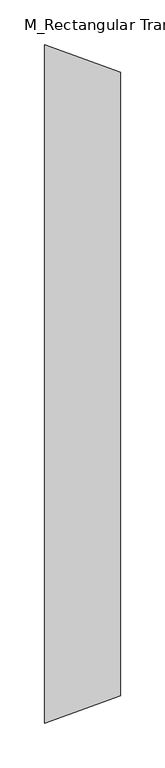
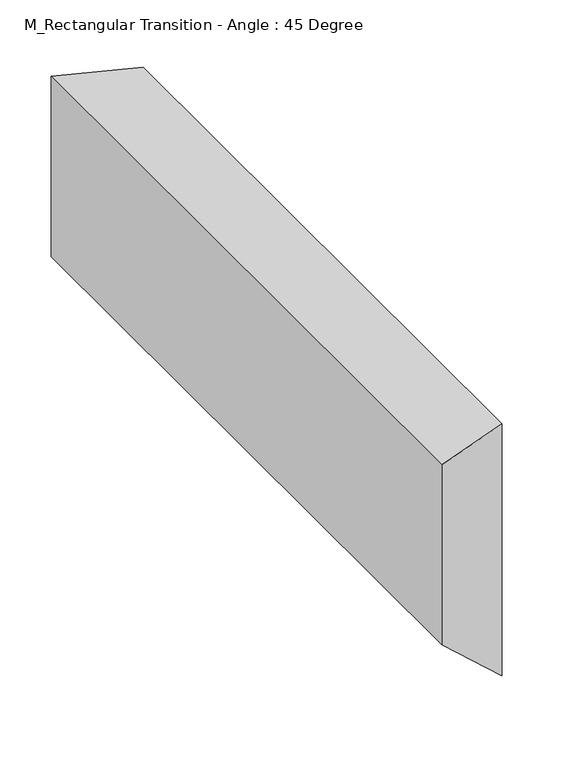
"""IFC4 building model written with IfcOpenShell, lengths in millimetres: duct fitting geometry, M_Rectangular Transition - Angle : 45 Degree."""

import ifcopenshell
import ifcopenshell.guid

model = None  # the IFC model being written
_history = None  # IfcOwnerHistory: only IFC2X3 demands one
_inside = {}  # id of a spatial element -> (the spatial element, [elements in it])
_under = {}  # id of a project, library or spatial element -> (it, [spatial elements below it])
_declared = {}  # id of a project -> (the project, [libraries it declares])
_typed = {}  # id of a type object -> (the type object, [elements of that type])
_made_of = {}  # id of a material, layer set ... -> (it, [elements and type objects made of it])


def new_model(schema):
    """Start an empty IFC model of exactly this schema.

    Asked for "IFC4X3", IfcOpenShell would pick the latest addendum, in which some entities
    have other attributes; the version numbers below select the first issue.
    IFC2X3 requires an IfcOwnerHistory on every rooted entity: one is made here for all.
    """
    global model, _history
    if schema == "IFC4X3":
        model = ifcopenshell.file(schema_version=(4, 3, 0, 0))
    else:
        model = ifcopenshell.file(schema=schema)
    _inside.clear()
    _under.clear()
    _declared.clear()
    _typed.clear()
    _made_of.clear()
    _history = None
    if model.schema == "IFC2X3":
        org = make("IfcOrganization", Name="unknown")
        user = make(
            "IfcPersonAndOrganization",
            ThePerson=make("IfcPerson", FamilyName="unknown"),
            TheOrganization=org,
        )
        app = make(
            "IfcApplication",
            ApplicationDeveloper=org,
            Version="unknown",
            ApplicationFullName="unknown",
            ApplicationIdentifier="unknown",
        )
        _history = make(
            "IfcOwnerHistory",
            OwningUser=user,
            OwningApplication=app,
            ChangeAction="ADDED",
            CreationDate=0,
        )
    return model


def make(cls, **values):
    """One entity of the class cls with the attributes given. An attribute that is None is left unset."""
    return model.create_entity(
        cls, **{name: value for name, value in values.items() if value is not None}
    )


def rooted(cls, **values):
    """An entity with a GlobalId (a new one), such as an element, a storey or a relation."""
    return make(cls, GlobalId=ifcopenshell.guid.new(), OwnerHistory=_history, **values)


def si_unit(unit_type, name, prefix=None):
    """IfcSIUnit, for example si_unit("LENGTHUNIT", "METRE", prefix="MILLI")."""
    return make("IfcSIUnit", UnitType=unit_type, Prefix=prefix, Name=name)


def assignment(units):
    """IfcUnitAssignment: the units of a project."""
    return None if units is None else make("IfcUnitAssignment", Units=units)


def point(xyz):
    """IfcCartesianPoint."""
    return None if xyz is None else make("IfcCartesianPoint", Coordinates=xyz)


def direction(xyz):
    """IfcDirection."""
    return None if xyz is None else make("IfcDirection", DirectionRatios=xyz)


def frame(location, z_axis=None, x_axis=None):
    """IfcAxis2Placement3D, a coordinate frame: its origin and axes. An axis left out is left unset."""
    return make(
        "IfcAxis2Placement3D",
        Location=point(location),
        Axis=direction(z_axis),
        RefDirection=direction(x_axis),
    )


def origin():
    """The frame at (0, 0, 0) with its axes left unset."""
    return frame((0.0, 0.0, 0.0))


def place(relative_to, where):
    """IfcLocalPlacement: puts the frame where relative to a parent placement (None: the world)."""
    return make(
        "IfcLocalPlacement", PlacementRelTo=relative_to, RelativePlacement=where
    )


def context(
    kind, dimensions, precision=None, world=None, true_north=None, identifier=None
):
    """IfcGeometricRepresentationContext, for example the 3D "Model" context."""
    return make(
        "IfcGeometricRepresentationContext",
        ContextIdentifier=identifier,
        ContextType=kind,
        CoordinateSpaceDimension=dimensions,
        Precision=precision,
        WorldCoordinateSystem=world,
        TrueNorth=true_north,
    )


def project(units=None, contexts=None):
    """IfcProject with its units and contexts."""
    return rooted(
        "IfcProject",
        Name="project",
        RepresentationContexts=contexts,
        UnitsInContext=assignment(units),
    )


def spatial(cls, under=None, at=None, **own):
    """A site, building, storey or space (cls), placed at a placement, below another one or the project."""
    s = rooted(cls, ObjectPlacement=at, **own)
    if under is not None:
        _under.setdefault(under.id(), (under, []))[1].append(s)
    return s


def faces_of(points, faces, orient=None, outer=None):
    """IfcFace entities. A face is a list of loops; a loop is a list of indices into points, from 0.

    orient and outer hold one flag for each loop. By default every Orientation is true, the
    first loop of a face is its IfcFaceOuterBound and the others are IfcFaceBound.
    """
    made = []
    for i, loops in enumerate(faces):
        bounds = []
        for j, loop in enumerate(loops):
            is_outer = j == 0 if outer is None else outer[i][j]
            bounds.append(
                make(
                    "IfcFaceOuterBound" if is_outer else "IfcFaceBound",
                    Bound=make("IfcPolyLoop", Polygon=[points[k] for k in loop]),
                    Orientation=True if orient is None else orient[i][j],
                )
            )
        made.append(make("IfcFace", Bounds=bounds))
    return made


def faceted_brep(points, faces, orient=None, outer=None, voids=None):
    """IfcFacetedBrep: a solid bounded by flat faces; with voids (closed shells), ...WithVoids."""
    shared = [point(p) for p in points]
    hull = make("IfcClosedShell", CfsFaces=faces_of(shared, faces, orient, outer))
    if voids is None:
        return make("IfcFacetedBrep", Outer=hull)
    return make(
        "IfcFacetedBrepWithVoids",
        Outer=hull,
        Voids=[
            make(cls, CfsFaces=faces_of(shared, fs, o, b)) for cls, fs, o, b in voids
        ],
    )


def shape(context_of_items, identifier, shape_type, items):
    """IfcShapeRepresentation: the items that make up one representation, for example the "Body"."""
    return make(
        "IfcShapeRepresentation",
        ContextOfItems=context_of_items,
        RepresentationIdentifier=identifier,
        RepresentationType=shape_type,
        Items=items,
    )


def source(mapping_origin, context_of_items, identifier, shape_type, items):
    """IfcRepresentationMap: a shape defined once, which mapped items show again and again."""
    return make(
        "IfcRepresentationMap",
        MappingOrigin=mapping_origin,
        MappedRepresentation=shape(context_of_items, identifier, shape_type, items),
    )


def transform(
    local_origin,
    x_axis=None,
    y_axis=None,
    z_axis=None,
    scale=None,
    scale2=None,
    scale3=None,
    uniform=True,
):
    """IfcCartesianTransformationOperator3D, or its non-uniform kind. x_axis, y_axis, z_axis: its Axis1, 2, 3."""
    if uniform:
        return make(
            "IfcCartesianTransformationOperator3D",
            Axis1=direction(x_axis),
            Axis2=direction(y_axis),
            LocalOrigin=point(local_origin),
            Scale=scale,
            Axis3=direction(z_axis),
        )
    return make(
        "IfcCartesianTransformationOperator3DnonUniform",
        Axis1=direction(x_axis),
        Axis2=direction(y_axis),
        LocalOrigin=point(local_origin),
        Scale=scale,
        Axis3=direction(z_axis),
        Scale2=scale2,
        Scale3=scale3,
    )


def mapped(mapping_source, mapping_target):
    """IfcMappedItem: shows the shape of a source again, moved by a transform."""
    return make(
        "IfcMappedItem", MappingSource=mapping_source, MappingTarget=mapping_target
    )


def made_of(thing, what):
    """Note that an element or type object is made of a material, layer set ...; save() writes the relation."""
    if what is not None:
        _made_of.setdefault(what.id(), (what, []))[1].append(thing)
    return thing


def element(
    cls,
    number,
    at=None,
    inside=None,
    cuts=None,
    type_object=None,
    material=None,
    context=None,
    identifier="Body",
    shape_type=None,
    held_by="IfcProductDefinitionShape",
    body=None,
    shapes=None,
    **own,
):
    """One element of the class cls, such as IfcWall. Its Tag is "e" and its number.

    at: its placement. inside: the storey or other place that contains it. cuts: it is an
    opening in that element (IfcRelVoidsElement). A single representation is given by context,
    identifier, shape_type and body (its items); several are given by shapes. held_by: the class
    of the entity that holds the representations. save() writes the other relations.
    """
    e = rooted(cls, Tag="e%d" % number, ObjectPlacement=at, **own)
    if body is not None:
        shapes = [shape(context, identifier, shape_type, body)]
    if shapes is not None:
        e.Representation = make(held_by, Representations=shapes)
    if inside is not None:
        _inside.setdefault(inside.id(), (inside, []))[1].append(e)
    if cuts is not None:
        rooted(
            "IfcRelVoidsElement", RelatingBuildingElement=cuts, RelatedOpeningElement=e
        )
    if type_object is not None:
        _typed.setdefault(type_object.id(), (type_object, []))[1].append(e)
    return made_of(e, material)


def aggregate(whole, parts):
    """IfcRelAggregates: a whole, such as a stair, and the parts it consists of."""
    return rooted("IfcRelAggregates", RelatingObject=whole, RelatedObjects=parts)


def save(model, path):
    """Write the relations noted so far, then the file.

    IfcRelAggregates (storeys below a building ...), IfcRelContainedInSpatialStructure (elements
    in a storey), IfcRelDefinesByType, IfcRelAssociatesMaterial and IfcRelDeclares: one each for
    every whole, place, type object, material and project.
    """
    for whole, parts in _under.values():
        aggregate(whole, parts)
    for where, things in _inside.values():
        rooted(
            "IfcRelContainedInSpatialStructure",
            RelatedElements=things,
            RelatingStructure=where,
        )
    for kind, things in _typed.values():
        rooted("IfcRelDefinesByType", RelatedObjects=things, RelatingType=kind)
    for what, things in _made_of.values():
        rooted("IfcRelAssociatesMaterial", RelatedObjects=things, RelatingMaterial=what)
    for by, libraries in _declared.values():
        rooted("IfcRelDeclares", RelatingContext=by, RelatedDefinitions=libraries)
    model.write(path)


def m_rectangular_transition_angle_45_degree_f6cc18ae(model_context):
    return source(origin(), model_context, "Body", "Brep", [
        faceted_brep([(85.6966054, -350.0, 107.1466057), (85.6966054, -350.0, -192.8533943), (85.6966054, 350.0, -192.8533943), (85.6966054, 350.0, 107.1466057), (0.0, -380.9375, 107.15), (0.0, 380.9375, 107.15), (0.0, 380.9375, -107.15), (0.0, -380.9375, -107.15)], [[[0, 1, 2, 3]], [[4, 5, 6, 7]], [[4, 7, 1, 0]], [[7, 6, 2, 1]], [[6, 5, 3, 2]], [[5, 4, 0, 3]]]),
    ])


if __name__ == "__main__":
    model = new_model("IFC4")
    model_context = context("Model", 3, world=origin())
    ifc_project = project(units=[si_unit("LENGTHUNIT", "METRE", prefix="MILLI")], contexts=[model_context])
    site = spatial("IfcSite", under=ifc_project)
    building = spatial("IfcBuilding", under=site)
    placement = place(None, origin())
    m_rectangular_transition_angle_45_degree_shape = m_rectangular_transition_angle_45_degree_f6cc18ae(model_context)
    element("IfcDuctFitting", 1, ObjectType="M_Rectangular Transition - Angle : 45 Degree", at=placement, inside=building, context=model_context, shape_type="MappedRepresentation", body=[
        mapped(m_rectangular_transition_angle_45_degree_shape, transform((0.0, 0.0, 0.0), x_axis=(1.0, 0.0, 0.0), y_axis=(0.0, 1.0, 0.0), z_axis=(0.0, 0.0, 1.0))),
    ])
    save(model, "model.ifc")
